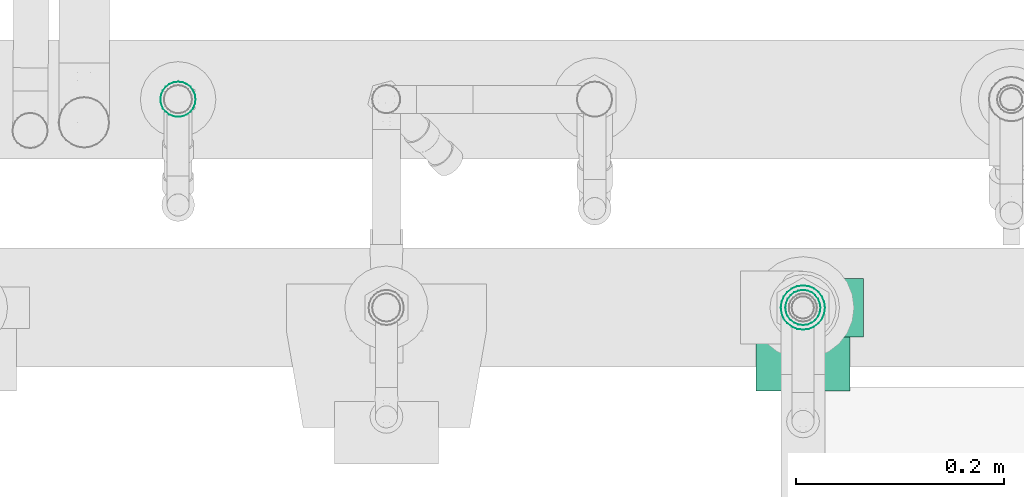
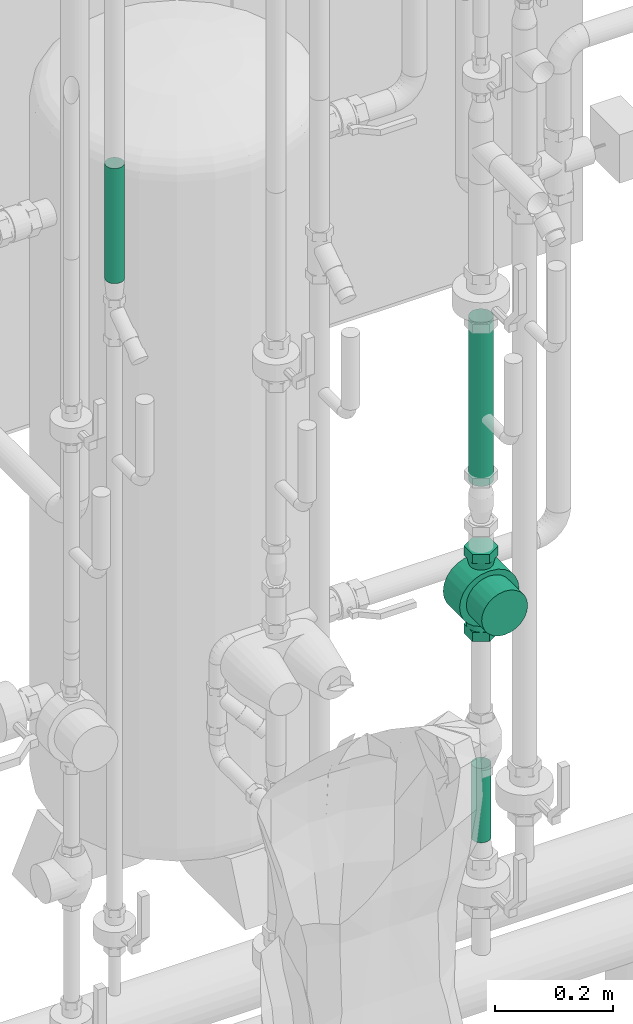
# One storey, part 268 of 374: 3 flow segments, 1 flow moving device.
"""IFC2X3 building model written with IfcOpenShell, lengths in metres."""

from ifc_helpers import new_model, si_unit, direction, origin, place, context, subcontext, project, spatial, open_shell, surface_model, source, transform, mapped, element, save


model = new_model("IFC2X3")

# Units and contexts
model_context = context("Model", 3, precision=1e-05, world=origin(), true_north=direction((-0.4480736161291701, 0.8939966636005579)))
body_context = subcontext(model_context, "Body", "Model", "MODEL_VIEW")
ifc_project = project(units=[si_unit("LENGTHUNIT", "METRE"), si_unit("AREAUNIT", "SQUARE_METRE"), si_unit("VOLUMEUNIT", "CUBIC_METRE"), si_unit("PLANEANGLEUNIT", "RADIAN"), si_unit("THERMODYNAMICTEMPERATUREUNIT", "KELVIN"), si_unit("MASSUNIT", "GRAM", prefix="KILO"), si_unit("TIMEUNIT", "SECOND")], contexts=[model_context])

# Site, building, storey
site_placement = place(None, origin())
site = spatial("IfcSite", under=ifc_project, at=site_placement, Name="Site 1", CompositionType="ELEMENT")
building_placement = place(site_placement, origin())
building = spatial("IfcBuilding", under=site, at=building_placement, Name="Undefined", CompositionType="ELEMENT")
storey_placement = place(building_placement, origin())
storey = spatial("IfcBuildingStorey", under=building, at=storey_placement, Name="Rez de chauss\x8ee", CompositionType="ELEMENT", Elevation=0.0)

# Flow segment
shared_shape_1 = source(origin(), body_context, "Body", "SurfaceModel", [
    surface_model("IfcFaceBasedSurfaceModel", [(0.0, 0.004398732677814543, 0.0), (0.0, 0.0, 0.0), (0.15351296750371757, -8.8817842e-16, 7.105427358e-15), (0.15351296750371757, 0.004398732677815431, 7.105427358e-15), (0.0, -0.004248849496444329, -0.00113847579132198), (0.15351296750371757, -0.004248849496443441, -0.00113847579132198), (0.0, -0.008058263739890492, -0.003337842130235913), (0.15351296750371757, -0.008058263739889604, -0.003337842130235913), (0.0, -0.01116863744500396, -0.0064482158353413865), (0.15351296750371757, -0.01116863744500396, -0.006448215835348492), (0.0, -0.013368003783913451, -0.010257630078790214), (0.15351296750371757, -0.013368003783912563, -0.010257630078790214), (0.0, -0.014506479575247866, -0.014506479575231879), (0.15351296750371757, -0.014506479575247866, -0.014506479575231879), (0.0, -0.01450647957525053, -0.01890521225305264), (0.15351296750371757, -0.01450647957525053, -0.01890521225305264), (0.0, -0.013368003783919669, -0.023154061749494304), (0.15351296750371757, -0.013368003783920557, -0.02315406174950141), (0.0, -0.011168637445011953, -0.02696347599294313), (0.15351296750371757, -0.011168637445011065, -0.02696347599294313), (0.0, -0.008058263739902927, -0.03007384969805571), (0.15351296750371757, -0.008058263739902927, -0.030073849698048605), (0.0, -0.004248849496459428, -0.03227321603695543), (0.15351296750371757, -0.00424884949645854, -0.03227321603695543), (0.0, -1.5099033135e-14, -0.03341169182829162), (0.15351296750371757, -1.5987211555e-14, -0.03341169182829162), (0.0, 0.00439873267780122, -0.03341169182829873), (0.15351296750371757, 0.004398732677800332, -0.03341169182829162), (0.0, 0.008647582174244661, -0.03227321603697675), (0.15351296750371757, 0.008647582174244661, -0.03227321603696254), (0.0, 0.012456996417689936, -0.030073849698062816), (0.15351296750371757, 0.012456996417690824, -0.030073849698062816), (0.0, 0.01556737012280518, -0.026963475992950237), (0.15351296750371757, 0.015567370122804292, -0.026963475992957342), (0.0, 0.017766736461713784, -0.023154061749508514), (0.15351296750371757, 0.017766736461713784, -0.023154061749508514), (0.0, 0.018905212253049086, -0.01890521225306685), (0.15351296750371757, 0.018905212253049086, -0.01890521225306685), (0.0, 0.018905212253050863, -0.01450647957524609), (0.15351296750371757, 0.01890521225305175, -0.01450647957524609), (0.0, 0.01776673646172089, -0.01025763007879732), (0.15351296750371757, 0.01776673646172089, -0.010257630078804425), (0.0, 0.015567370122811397, -0.006448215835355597), (0.15351296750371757, 0.015567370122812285, -0.006448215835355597), (0.0, 0.012456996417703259, -0.0033378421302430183), (0.15351296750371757, 0.012456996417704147, -0.003337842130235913), (0.0, 0.00864758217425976, -0.0011384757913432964), (0.15351296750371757, 0.008647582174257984, -0.0011384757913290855)], [open_shell([[[0, 1, 2, 3]], [[1, 4, 5, 2]], [[4, 6, 7, 5]], [[6, 8, 9, 7]], [[8, 10, 11, 9]], [[10, 12, 13, 11]], [[12, 14, 15, 13]], [[14, 16, 17, 15]], [[16, 18, 19, 17]], [[18, 20, 21, 19]], [[20, 22, 23, 21]], [[22, 24, 25, 23]], [[24, 26, 27, 25]], [[26, 28, 29, 27]], [[28, 30, 31, 29]], [[30, 32, 33, 31]], [[32, 34, 35, 33]], [[34, 36, 37, 35]], [[36, 38, 39, 37]], [[38, 40, 41, 39]], [[40, 42, 43, 41]], [[42, 44, 45, 43]], [[44, 46, 47, 45]], [[46, 0, 3, 47]]])]),
])
flow_segment_1_placement = place(storey_placement, origin())
element("IfcFlowSegment", 1, at=flow_segment_1_placement, inside=storey, Name="Tube acier d'après DIN 2448", ObjectType="Tube acier d'après DIN 2448", context=body_context, shape_type="MappedRepresentation", body=[
    mapped(shared_shape_1, transform((53.67383786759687, 10.722398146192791, 0.5889500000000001), x_axis=(0.0, 0.0, 1.0), y_axis=(0.13052619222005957, -0.9914448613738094, 0.0), z_axis=(0.9914448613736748, 0.13052619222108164, 0.0))),
])

# Flow moving device
shared_shape_2 = source(origin(), body_context, "Body", "SurfaceModel", [
    surface_model("IfcFaceBasedSurfaceModel", [(0.0, 0.0, 0.0), (0.028867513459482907, 0.0, 0.0), (0.028867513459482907, 0.019099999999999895, 0.0), (0.0, 0.019099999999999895, 0.0), (-0.014433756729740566, 0.0, 0.02499999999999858), (-0.014433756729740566, 0.019099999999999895, 0.02499999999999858), (0.0, 0.0, 0.04999999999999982), (0.0, 0.019099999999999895, 0.04999999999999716), (0.028867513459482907, 0.0, 0.04999999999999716), (0.028867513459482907, 0.019099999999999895, 0.04999999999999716), (0.04330127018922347, 0.0, 0.02499999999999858), (0.04330127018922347, 0.019099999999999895, 0.02499999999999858), (-0.010566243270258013, 0.019099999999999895, 0.02499999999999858), (-0.00971438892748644, 0.019099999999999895, 0.03147047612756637), (-0.006043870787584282, 0.03509999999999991, 0.0304869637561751), (-0.006766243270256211, 0.03509999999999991, 0.02499999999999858), (-0.007216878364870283, 0.019099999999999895, 0.03750000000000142), (-0.003925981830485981, 0.03509999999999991, 0.035600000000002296), (-0.0032439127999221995, 0.019099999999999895, 0.04267766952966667), (-0.0005569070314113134, 0.03509999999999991, 0.03999066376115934), (0.001933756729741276, 0.019099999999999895, 0.04665063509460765), (0.003833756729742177, 0.03509999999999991, 0.04335973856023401), (0.007963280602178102, 0.019099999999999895, 0.04914814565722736), (0.008946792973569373, 0.03509999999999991, 0.04547762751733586), (0.014433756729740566, 0.019099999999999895, 0.04999999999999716), (0.014433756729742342, 0.03509999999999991, 0.046200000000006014), (0.02090423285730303, 0.019099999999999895, 0.04914814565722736), (0.019920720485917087, 0.03509999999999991, 0.04547762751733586), (0.02693375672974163, 0.019099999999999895, 0.04665063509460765), (0.025033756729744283, 0.03509999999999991, 0.04335973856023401), (0.03211142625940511, 0.019099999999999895, 0.04267766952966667), (0.029424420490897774, 0.03509999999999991, 0.03999066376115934), (0.03608439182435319, 0.019099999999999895, 0.03750000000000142), (0.03279349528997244, 0.03509999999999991, 0.035600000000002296), (0.03858190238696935, 0.019099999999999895, 0.03147047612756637), (0.03491138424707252, 0.03509999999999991, 0.0304869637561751), (0.03943375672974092, 0.019099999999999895, 0.02499999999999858), (0.03563375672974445, 0.03509999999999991, 0.02499999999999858), (0.03858190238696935, 0.019099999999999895, 0.018529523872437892), (0.03491138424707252, 0.03509999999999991, 0.019513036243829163), (0.03608439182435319, 0.019099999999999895, 0.012500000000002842), (0.03279349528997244, 0.03509999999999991, 0.014400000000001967), (0.03211142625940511, 0.019099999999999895, 0.00732233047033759), (0.029424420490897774, 0.03509999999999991, 0.010009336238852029), (0.02693375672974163, 0.019099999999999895, 0.003349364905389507), (0.025033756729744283, 0.03509999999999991, 0.006640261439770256), (0.02090423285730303, 0.019099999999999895, 0.0008518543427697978), (0.019920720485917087, 0.03509999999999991, 0.004522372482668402), (0.014433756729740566, 0.019099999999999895, 0.0), (0.014433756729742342, 0.03509999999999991, 0.0038000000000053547), (0.007963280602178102, 0.019099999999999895, 0.0008518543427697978), (0.008946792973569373, 0.03509999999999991, 0.004522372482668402), (0.001933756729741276, 0.019099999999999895, 0.003349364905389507), (0.003833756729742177, 0.03509999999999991, 0.006640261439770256), (-0.0032439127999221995, 0.019099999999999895, 0.00732233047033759), (-0.0005569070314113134, 0.03509999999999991, 0.010009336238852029), (-0.007216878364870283, 0.019099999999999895, 0.012500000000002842), (-0.003925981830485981, 0.03509999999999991, 0.014400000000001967), (-0.00971438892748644, 0.019099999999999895, 0.018529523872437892), (-0.006043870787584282, 0.03509999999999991, 0.019513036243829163), (-0.006766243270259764, 0.14490000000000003, 0.02499999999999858), (-0.006043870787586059, 0.14490000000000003, 0.030486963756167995), (-0.009714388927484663, 0.16090000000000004, 0.03147047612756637), (-0.010566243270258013, 0.16090000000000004, 0.025000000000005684), (-0.003925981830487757, 0.14490000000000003, 0.03559999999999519), (-0.007216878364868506, 0.16090000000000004, 0.03750000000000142), (-0.0005569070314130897, 0.14490000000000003, 0.03999066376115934), (-0.0032439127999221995, 0.16090000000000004, 0.04267766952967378), (0.0038337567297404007, 0.14490000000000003, 0.04335973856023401), (0.001933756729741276, 0.16090000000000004, 0.04665063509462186), (0.008946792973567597, 0.14490000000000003, 0.045477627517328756), (0.007963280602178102, 0.16090000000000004, 0.04914814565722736), (0.014433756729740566, 0.14490000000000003, 0.04619999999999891), (0.014433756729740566, 0.16090000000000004, 0.04999999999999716), (0.01992072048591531, 0.14490000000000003, 0.045477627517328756), (0.02090423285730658, 0.16090000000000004, 0.04914814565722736), (0.025033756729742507, 0.14490000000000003, 0.04335973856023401), (0.026933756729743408, 0.16090000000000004, 0.04665063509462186), (0.029424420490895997, 0.14490000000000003, 0.03999066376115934), (0.03211142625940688, 0.16090000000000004, 0.04267766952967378), (0.032793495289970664, 0.14490000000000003, 0.03559999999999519), (0.03608439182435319, 0.16090000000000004, 0.03750000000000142), (0.034911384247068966, 0.14490000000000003, 0.030486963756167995), (0.03858190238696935, 0.16090000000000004, 0.03147047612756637), (0.03563375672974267, 0.14490000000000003, 0.02499999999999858), (0.0394337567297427, 0.16090000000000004, 0.025000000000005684), (0.034911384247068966, 0.14490000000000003, 0.019513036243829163), (0.03858190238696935, 0.16090000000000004, 0.018529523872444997), (0.032793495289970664, 0.14490000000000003, 0.014400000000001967), (0.03608439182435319, 0.16090000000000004, 0.012500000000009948), (0.029424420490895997, 0.14490000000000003, 0.010009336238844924), (0.03211142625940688, 0.16090000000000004, 0.007322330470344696), (0.025033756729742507, 0.14490000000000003, 0.006640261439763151), (0.026933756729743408, 0.16090000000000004, 0.003349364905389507), (0.01992072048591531, 0.14490000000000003, 0.004522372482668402), (0.02090423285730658, 0.16090000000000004, 0.0008518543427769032), (0.014433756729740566, 0.14490000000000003, 0.0038000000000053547), (0.014433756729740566, 0.16090000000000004, 7.105427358e-15), (0.008946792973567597, 0.14490000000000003, 0.004522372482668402), (0.007963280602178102, 0.16090000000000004, 0.0008518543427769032), (0.0038337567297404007, 0.14490000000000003, 0.006640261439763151), (0.001933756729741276, 0.16090000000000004, 0.003349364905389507), (-0.0005569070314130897, 0.14490000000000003, 0.010009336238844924), (-0.0032439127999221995, 0.16090000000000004, 0.007322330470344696), (-0.003925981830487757, 0.14490000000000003, 0.014400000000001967), (-0.007216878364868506, 0.16090000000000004, 0.012500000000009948), (-0.006043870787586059, 0.14490000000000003, 0.019513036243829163), (-0.009714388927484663, 0.16090000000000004, 0.018529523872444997), (0.0, 0.16090000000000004, 0.0), (0.028867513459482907, 0.16090000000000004, 0.0), (0.028867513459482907, 0.17999999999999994, 0.0), (0.0, 0.17999999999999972, 0.0), (-0.014433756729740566, 0.16090000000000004, 0.02499999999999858), (-0.014433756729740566, 0.17999999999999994, 0.02499999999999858), (0.0, 0.16090000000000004, 0.04999999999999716), (0.0, 0.17999999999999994, 0.04999999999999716), (0.028867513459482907, 0.16090000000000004, 0.04999999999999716), (0.028867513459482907, 0.17999999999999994, 0.04999999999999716), (0.04330127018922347, 0.16090000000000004, 0.02499999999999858), (0.04330127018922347, 0.17999999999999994, 0.02499999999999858), (0.042433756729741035, 0.03509999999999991, 0.028100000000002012), (0.042433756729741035, 0.03509999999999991, 0.02190000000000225), (-0.013566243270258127, 0.03509999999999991, 0.02190000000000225), (-0.013566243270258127, 0.03509999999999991, 0.028100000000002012), (0.042433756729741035, 0.14490000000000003, 0.02190000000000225), (0.042433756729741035, 0.14302932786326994, 0.007690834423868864), (-0.013566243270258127, 0.14302932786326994, 0.007690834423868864), (-0.013566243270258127, 0.14490000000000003, 0.02190000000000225), (0.042433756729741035, 0.1375447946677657, -0.0055499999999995), (-0.013566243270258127, 0.1375447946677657, -0.0055499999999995), (0.042433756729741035, 0.12882016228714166, -0.016920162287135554), (-0.013566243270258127, 0.12882016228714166, -0.016920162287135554), (0.042433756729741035, 0.11745000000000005, -0.025644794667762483), (-0.013566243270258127, 0.11745000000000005, -0.025644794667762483), (0.042433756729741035, 0.10420916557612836, -0.03112932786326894), (-0.013566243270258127, 0.10420916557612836, -0.03112932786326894), (0.042433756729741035, 0.09000000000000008, -0.032999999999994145), (-0.013566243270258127, 0.09000000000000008, -0.032999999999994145), (0.042433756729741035, 0.0757908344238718, -0.03112932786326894), (-0.013566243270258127, 0.0757908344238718, -0.03112932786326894), (0.042433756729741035, 0.06254999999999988, -0.025644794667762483), (-0.013566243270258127, 0.06254999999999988, -0.025644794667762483), (0.042433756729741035, 0.0511798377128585, -0.016920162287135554), (-0.013566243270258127, 0.0511798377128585, -0.016920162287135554), (0.042433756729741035, 0.042455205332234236, -0.0055499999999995), (-0.013566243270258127, 0.042455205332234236, -0.0055499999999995), (0.042433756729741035, 0.03697067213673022, 0.007690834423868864), (-0.013566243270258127, 0.03697067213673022, 0.007690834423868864), (0.042433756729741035, 0.14490000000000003, 0.028100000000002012), (-0.013566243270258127, 0.14490000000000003, 0.028100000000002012), (0.042433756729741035, 0.03697067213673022, 0.0423091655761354), (-0.013566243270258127, 0.03697067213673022, 0.0423091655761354), (0.042433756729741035, 0.042455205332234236, 0.05555000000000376), (-0.013566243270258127, 0.042455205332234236, 0.05555000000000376), (0.042433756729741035, 0.0511798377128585, 0.06692016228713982), (-0.013566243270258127, 0.0511798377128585, 0.06692016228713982), (0.042433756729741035, 0.06254999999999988, 0.07564479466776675), (-0.013566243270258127, 0.06254999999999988, 0.07564479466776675), (0.042433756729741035, 0.07579083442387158, 0.0811293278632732), (-0.013566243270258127, 0.07579083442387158, 0.0811293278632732), (0.042433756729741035, 0.09000000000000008, 0.08300000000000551), (-0.013566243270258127, 0.09000000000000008, 0.08300000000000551), (0.042433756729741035, 0.10420916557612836, 0.0811293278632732), (-0.013566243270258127, 0.10420916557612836, 0.0811293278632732), (0.042433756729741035, 0.11745000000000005, 0.07564479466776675), (-0.013566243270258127, 0.11745000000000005, 0.07564479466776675), (0.042433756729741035, 0.12882016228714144, 0.06692016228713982), (-0.013566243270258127, 0.12882016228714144, 0.06692016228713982), (0.042433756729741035, 0.1375447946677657, 0.05555000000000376), (-0.013566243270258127, 0.1375447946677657, 0.05555000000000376), (0.042433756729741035, 0.14302932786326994, 0.0423091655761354), (-0.013566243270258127, 0.14302932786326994, 0.0423091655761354), (0.042433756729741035, 0.135, 0.025000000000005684), (0.042433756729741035, 0.13346666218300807, 0.03664685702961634), (0.09443375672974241, 0.13346666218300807, 0.03664685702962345), (0.09443375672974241, 0.135, 0.02500000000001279), (0.042433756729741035, 0.12897114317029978, 0.04749999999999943), (0.09443375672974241, 0.12897114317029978, 0.04750000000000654), (0.042433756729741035, 0.12181980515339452, 0.05681980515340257), (0.09443375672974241, 0.12181980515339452, 0.056819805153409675), (0.042433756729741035, 0.11250000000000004, 0.06397114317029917), (0.09443375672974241, 0.11250000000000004, 0.06397114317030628), (0.042433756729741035, 0.1016468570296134, 0.06846666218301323), (0.09443375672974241, 0.1016468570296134, 0.06846666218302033), (0.042433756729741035, 0.09000000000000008, 0.07000000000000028), (0.09443375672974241, 0.09000000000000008, 0.07000000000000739), (0.042433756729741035, 0.07835314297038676, 0.06846666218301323), (0.09443375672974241, 0.07835314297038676, 0.06846666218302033), (0.042433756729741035, 0.06750000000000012, 0.06397114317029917), (0.09443375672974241, 0.06750000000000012, 0.06397114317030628), (0.042433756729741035, 0.058180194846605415, 0.05681980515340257), (0.09443375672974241, 0.058180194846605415, 0.056819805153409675), (0.042433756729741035, 0.051028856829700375, 0.04749999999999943), (0.09443375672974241, 0.051028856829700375, 0.04750000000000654), (0.042433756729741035, 0.04653333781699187, 0.03664685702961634), (0.09443375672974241, 0.04653333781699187, 0.03664685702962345), (0.042433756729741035, 0.04499999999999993, 0.025000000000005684), (0.09443375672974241, 0.04499999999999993, 0.02500000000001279), (0.042433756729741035, 0.04653333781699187, 0.013353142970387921), (0.09443375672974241, 0.04653333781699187, 0.013353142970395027), (0.042433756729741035, 0.051028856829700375, 0.0025000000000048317), (0.09443375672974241, 0.051028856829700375, 0.002500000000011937), (0.042433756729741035, 0.058180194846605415, -0.006819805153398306), (0.09443375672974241, 0.058180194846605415, -0.006819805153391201), (0.042433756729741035, 0.06750000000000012, -0.013971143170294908), (0.09443375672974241, 0.06750000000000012, -0.013971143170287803), (0.042433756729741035, 0.07835314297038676, -0.018466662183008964), (0.09443375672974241, 0.07835314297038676, -0.01846666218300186), (0.042433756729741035, 0.09000000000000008, -0.01999999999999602), (0.09443375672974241, 0.09000000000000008, -0.019999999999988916), (0.042433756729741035, 0.1016468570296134, -0.018466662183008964), (0.09443375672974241, 0.1016468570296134, -0.01846666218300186), (0.042433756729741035, 0.11250000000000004, -0.013971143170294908), (0.09443375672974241, 0.11250000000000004, -0.013971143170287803), (0.042433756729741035, 0.12181980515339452, -0.006819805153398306), (0.09443375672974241, 0.12181980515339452, -0.006819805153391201), (0.042433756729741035, 0.12897114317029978, 0.0025000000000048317), (0.09443375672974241, 0.12897114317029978, 0.002500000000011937), (0.042433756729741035, 0.13346666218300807, 0.013353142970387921), (0.09443375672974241, 0.13346666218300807, 0.013353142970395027), (0.09443375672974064, 0.09000000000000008, 0.025000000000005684)], [open_shell([[[0, 1, 2, 3]], [[4, 0, 3, 5]], [[6, 4, 5, 7]], [[8, 6, 7, 9]], [[10, 8, 9, 11]], [[1, 10, 11, 2]], [[1, 0, 4]], [[1, 4, 6]], [[1, 6, 8]], [[1, 8, 10]], [[2, 5, 3]], [[2, 7, 5]], [[2, 9, 7]], [[2, 11, 9]], [[12, 13, 14, 15]], [[13, 16, 17, 14]], [[16, 18, 19, 17]], [[18, 20, 21, 19]], [[20, 22, 23, 21]], [[22, 24, 25, 23]], [[24, 26, 27, 25]], [[26, 28, 29, 27]], [[28, 30, 31, 29]], [[30, 32, 33, 31]], [[32, 34, 35, 33]], [[34, 36, 37, 35]], [[36, 38, 39, 37]], [[38, 40, 41, 39]], [[40, 42, 43, 41]], [[42, 44, 45, 43]], [[44, 46, 47, 45]], [[46, 48, 49, 47]], [[48, 50, 51, 49]], [[50, 52, 53, 51]], [[52, 54, 55, 53]], [[54, 56, 57, 55]], [[56, 58, 59, 57]], [[58, 12, 15, 59]], [[60, 61, 62, 63]], [[61, 64, 65, 62]], [[64, 66, 67, 65]], [[66, 68, 69, 67]], [[68, 70, 71, 69]], [[70, 72, 73, 71]], [[72, 74, 75, 73]], [[74, 76, 77, 75]], [[76, 78, 79, 77]], [[78, 80, 81, 79]], [[80, 82, 83, 81]], [[82, 84, 85, 83]], [[84, 86, 87, 85]], [[86, 88, 89, 87]], [[88, 90, 91, 89]], [[90, 92, 93, 91]], [[92, 94, 95, 93]], [[94, 96, 97, 95]], [[96, 98, 99, 97]], [[98, 100, 101, 99]], [[100, 102, 103, 101]], [[102, 104, 105, 103]], [[104, 106, 107, 105]], [[106, 60, 63, 107]], [[108, 109, 110, 111]], [[112, 108, 111, 113]], [[114, 112, 113, 115]], [[116, 114, 115, 117]], [[118, 116, 117, 119]], [[109, 118, 119, 110]], [[109, 108, 112]], [[109, 112, 114]], [[109, 114, 116]], [[109, 116, 118]], [[110, 113, 111]], [[110, 115, 113]], [[110, 117, 115]], [[110, 119, 117]], [[120, 121, 122, 123]], [[124, 125, 126, 127]], [[125, 128, 129, 126]], [[128, 130, 131, 129]], [[130, 132, 133, 131]], [[132, 134, 135, 133]], [[134, 136, 137, 135]], [[136, 138, 139, 137]], [[138, 140, 141, 139]], [[140, 142, 143, 141]], [[142, 144, 145, 143]], [[144, 146, 147, 145]], [[146, 121, 122, 147]], [[124, 148, 149, 127]], [[120, 150, 151, 123]], [[150, 152, 153, 151]], [[152, 154, 155, 153]], [[154, 156, 157, 155]], [[156, 158, 159, 157]], [[158, 160, 161, 159]], [[160, 162, 163, 161]], [[162, 164, 165, 163]], [[164, 166, 167, 165]], [[166, 168, 169, 167]], [[168, 170, 171, 169]], [[170, 148, 149, 171]], [[147, 122, 123]], [[145, 147, 123]], [[143, 145, 123]], [[141, 143, 123]], [[139, 141, 123]], [[137, 139, 123]], [[135, 137, 123]], [[133, 135, 123]], [[131, 133, 123]], [[129, 131, 123]], [[126, 129, 123]], [[127, 126, 123]], [[149, 127, 123]], [[171, 149, 123]], [[169, 171, 123]], [[167, 169, 123]], [[165, 167, 123]], [[163, 165, 123]], [[161, 163, 123]], [[159, 161, 123]], [[157, 159, 123]], [[155, 157, 123]], [[153, 155, 123]], [[151, 153, 123]], [[120, 121, 146]], [[120, 146, 144]], [[120, 144, 142]], [[120, 142, 140]], [[120, 140, 138]], [[120, 138, 136]], [[120, 136, 134]], [[120, 134, 132]], [[120, 132, 130]], [[120, 130, 128]], [[120, 128, 125]], [[120, 125, 124]], [[120, 124, 148]], [[120, 148, 170]], [[120, 170, 168]], [[120, 168, 166]], [[120, 166, 164]], [[120, 164, 162]], [[120, 162, 160]], [[120, 160, 158]], [[120, 158, 156]], [[120, 156, 154]], [[120, 154, 152]], [[120, 152, 150]], [[172, 173, 174, 175]], [[173, 176, 177, 174]], [[176, 178, 179, 177]], [[178, 180, 181, 179]], [[180, 182, 183, 181]], [[182, 184, 185, 183]], [[184, 186, 187, 185]], [[186, 188, 189, 187]], [[188, 190, 191, 189]], [[190, 192, 193, 191]], [[192, 194, 195, 193]], [[194, 196, 197, 195]], [[196, 198, 199, 197]], [[198, 200, 201, 199]], [[200, 202, 203, 201]], [[202, 204, 205, 203]], [[204, 206, 207, 205]], [[206, 208, 209, 207]], [[208, 210, 211, 209]], [[210, 212, 213, 211]], [[212, 214, 215, 213]], [[214, 216, 217, 215]], [[216, 218, 219, 217]], [[218, 172, 175, 219]], [[220, 219, 175]], [[220, 217, 219]], [[220, 215, 217]], [[220, 213, 215]], [[220, 211, 213]], [[220, 209, 211]], [[220, 207, 209]], [[220, 205, 207]], [[220, 203, 205]], [[220, 201, 203]], [[220, 199, 201]], [[220, 197, 199]], [[220, 195, 197]], [[220, 193, 195]], [[220, 191, 193]], [[220, 189, 191]], [[220, 187, 189]], [[220, 185, 187]], [[220, 183, 185]], [[220, 181, 183]], [[220, 179, 181]], [[220, 177, 179]], [[220, 174, 177]], [[220, 175, 174]]])]),
])
flow_moving_device_placement = place(storey_placement, origin())
element("IfcFlowMovingDevice", 2, at=flow_moving_device_placement, inside=storey, Name="Pompe insérée dans réseau", ObjectType="Pompe insérée dans réseau", context=body_context, shape_type="MappedRepresentation", body=[
    mapped(shared_shape_2, transform((53.682562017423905, 10.732470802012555, 1.01), x_axis=(0.0, -1.0, 0.0), y_axis=(0.0, 0.0, 1.0), z_axis=(-1.0, 0.0, 0.0))),
])

# Flow segments
shared_shape_3 = source(origin(), body_context, "Body", "SurfaceModel", [
    surface_model("IfcFaceBasedSurfaceModel", [(0.0, 0.005534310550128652, 0.0), (0.0, 0.0, 0.0), (0.3375415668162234, 0.0, 0.0), (0.3375415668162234, 0.00553431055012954, 7.105427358e-15), (0.0, -0.00534573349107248, -0.0014323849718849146), (0.3375415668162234, -0.005345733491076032, -0.0014323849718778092), (0.0, -0.010138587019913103, -0.004199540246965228), (0.3375415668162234, -0.010138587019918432, -0.004199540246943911), (0.0, -0.01405193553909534, -0.008112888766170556), (0.3375415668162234, -0.014051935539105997, -0.008112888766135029), (0.0, -0.016819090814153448, -0.012905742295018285), (0.3375415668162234, -0.016819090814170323, -0.012905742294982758), (0.0, -0.018251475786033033, -0.018251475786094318), (0.3375415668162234, -0.018251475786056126, -0.018251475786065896), (0.0, -0.0182514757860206, -0.02378578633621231), (0.3375415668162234, -0.018251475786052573, -0.02378578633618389), (0.0, -0.01681909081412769, -0.029131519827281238), (0.3375415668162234, -0.016819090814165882, -0.029131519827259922), (0.0, -0.014051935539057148, -0.03392437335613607), (0.3375415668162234, -0.01405193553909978, -0.033924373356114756), (0.0, -0.010138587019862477, -0.037837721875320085), (0.3375415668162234, -0.010138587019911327, -0.03783772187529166), (0.0, -0.005345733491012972, -0.040604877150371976), (0.3375415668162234, -0.00534573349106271, -0.040604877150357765), (0.0, 6.4837024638e-14, -0.042037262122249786), (0.3375415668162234, 1.1546319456e-14, -0.04203726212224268), (0.0, 0.005534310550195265, -0.04203726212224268), (0.3375415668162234, 0.005534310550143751, -0.042037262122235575), (0.0, 0.010880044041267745, -0.04060487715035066), (0.3375415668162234, 0.010880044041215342, -0.040604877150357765), (0.0, 0.01567289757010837, -0.03783772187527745), (0.3375415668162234, 0.015672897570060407, -0.03783772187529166), (0.0, 0.019586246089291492, -0.033924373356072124), (0.3375415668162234, 0.01958624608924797, -0.033924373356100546), (0.0, 0.0223534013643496, -0.029131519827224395), (0.3375415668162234, 0.022353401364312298, -0.029131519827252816), (0.0, 0.02378578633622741, -0.023785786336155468), (0.3375415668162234, 0.023785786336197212, -0.02378578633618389), (0.0, 0.023785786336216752, -0.01825147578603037), (0.3375415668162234, 0.023785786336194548, -0.018251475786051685), (0.0, 0.022353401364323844, -0.012905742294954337), (0.3375415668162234, 0.022353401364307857, -0.012905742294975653), (0.0, 0.019586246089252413, -0.008112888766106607), (0.3375415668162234, 0.019586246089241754, -0.008112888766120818), (0.0, 0.015672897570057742, -0.004199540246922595), (0.3375415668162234, 0.015672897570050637, -0.004199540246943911), (0.0, 0.010880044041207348, -0.0014323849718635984), (0.3375415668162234, 0.01088004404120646, -0.0014323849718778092)], [open_shell([[[0, 1, 2, 3]], [[1, 4, 5, 2]], [[4, 6, 7, 5]], [[6, 8, 9, 7]], [[8, 10, 11, 9]], [[10, 12, 13, 11]], [[12, 14, 15, 13]], [[14, 16, 17, 15]], [[16, 18, 19, 17]], [[18, 20, 21, 19]], [[20, 22, 23, 21]], [[22, 24, 25, 23]], [[24, 26, 27, 25]], [[26, 28, 29, 27]], [[28, 30, 31, 29]], [[30, 32, 33, 31]], [[32, 34, 35, 33]], [[34, 36, 37, 35]], [[36, 38, 39, 37]], [[38, 40, 41, 39]], [[40, 42, 43, 41]], [[42, 44, 45, 43]], [[44, 46, 47, 45]], [[46, 0, 3, 47]]])]),
])
flow_segment_2_placement = place(storey_placement, origin())
element("IfcFlowSegment", 3, at=flow_segment_2_placement, inside=storey, Name="Tube acier d'après DIN 2448", ObjectType="Tube acier d'après DIN 2448", context=body_context, shape_type="MappedRepresentation", body=[
    mapped(shared_shape_3, transform((53.67803964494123, 10.723524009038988, 1.3275475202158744), x_axis=(0.0, 0.0, 1.0), y_axis=(0.13052619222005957, -0.9914448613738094, 0.0), z_axis=(0.9914448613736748, 0.13052619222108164, 0.0))),
])
shared_shape_4 = source(origin(), body_context, "Body", "SurfaceModel", [
    surface_model("IfcFaceBasedSurfaceModel", [(0.0, 0.004398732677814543, 0.0), (0.0, 0.0, 0.0), (0.23775453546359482, 0.0, 0.0), (0.23775453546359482, 0.004398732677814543, 7.105427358e-15), (0.0, -0.004248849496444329, -0.00113847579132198), (0.23775453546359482, -0.0042488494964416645, -0.0011384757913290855), (0.0, -0.008058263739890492, -0.003337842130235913), (0.23775453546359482, -0.008058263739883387, -0.0033378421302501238), (0.0, -0.01116863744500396, -0.0064482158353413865), (0.23775453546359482, -0.011168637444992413, -0.006448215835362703), (0.0, -0.013368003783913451, -0.010257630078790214), (0.23775453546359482, -0.013368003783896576, -0.010257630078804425), (0.0, -0.014506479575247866, -0.014506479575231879), (0.23775453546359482, -0.014506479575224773, -0.0145064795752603), (0.0, -0.01450647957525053, -0.01890521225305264), (0.23775453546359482, -0.014506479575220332, -0.01890521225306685), (0.0, -0.013368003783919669, -0.023154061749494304), (0.23775453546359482, -0.013368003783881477, -0.023154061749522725), (0.0, -0.011168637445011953, -0.02696347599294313), (0.23775453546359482, -0.011168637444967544, -0.026963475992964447), (0.0, -0.008058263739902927, -0.03007384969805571), (0.23775453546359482, -0.008058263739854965, -0.030073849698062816), (0.0, -0.004248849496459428, -0.03227321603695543), (0.23775453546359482, -0.004248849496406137, -0.03227321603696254), (0.0, -1.5099033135e-14, -0.03341169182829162), (0.23775453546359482, 3.8191672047e-14, -0.03341169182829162), (0.0, 0.00439873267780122, -0.03341169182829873), (0.23775453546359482, 0.004398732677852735, -0.03341169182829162), (0.0, 0.008647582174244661, -0.03227321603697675), (0.23775453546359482, 0.0086475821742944, -0.03227321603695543), (0.0, 0.012456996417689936, -0.030073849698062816), (0.23775453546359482, 0.012456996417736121, -0.0300738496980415), (0.0, 0.01556737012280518, -0.026963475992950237), (0.23775453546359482, 0.015567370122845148, -0.026963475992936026), (0.0, 0.017766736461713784, -0.023154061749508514), (0.23775453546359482, 0.017766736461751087, -0.023154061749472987), (0.0, 0.018905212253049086, -0.01890521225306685), (0.23775453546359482, 0.018905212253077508, -0.018905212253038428), (0.0, 0.018905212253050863, -0.01450647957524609), (0.23775453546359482, 0.018905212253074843, -0.014506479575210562), (0.0, 0.01776673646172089, -0.01025763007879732), (0.23775453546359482, 0.01776673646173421, -0.010257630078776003), (0.0, 0.015567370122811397, -0.006448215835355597), (0.23775453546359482, 0.015567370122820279, -0.006448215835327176), (0.0, 0.012456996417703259, -0.0033378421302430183), (0.23775453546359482, 0.0124569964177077, -0.003337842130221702), (0.0, 0.00864758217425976, -0.0011384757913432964), (0.23775453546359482, 0.008647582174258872, -0.0011384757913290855)], [open_shell([[[0, 1, 2, 3]], [[1, 4, 5, 2]], [[4, 6, 7, 5]], [[6, 8, 9, 7]], [[8, 10, 11, 9]], [[10, 12, 13, 11]], [[12, 14, 15, 13]], [[14, 16, 17, 15]], [[16, 18, 19, 17]], [[18, 20, 21, 19]], [[20, 22, 23, 21]], [[22, 24, 25, 23]], [[24, 26, 27, 25]], [[26, 28, 29, 27]], [[28, 30, 31, 29]], [[30, 32, 33, 31]], [[32, 34, 35, 33]], [[34, 36, 37, 35]], [[36, 38, 39, 37]], [[38, 40, 41, 39]], [[40, 42, 43, 41]], [[42, 44, 45, 43]], [[44, 46, 47, 45]], [[46, 0, 3, 47]]])]),
])
flow_segment_3_placement = place(storey_placement, origin())
element("IfcFlowSegment", 4, at=flow_segment_3_placement, inside=storey, Name="Tube acier d'après DIN 2448", ObjectType="Tube acier d'après DIN 2448", context=body_context, shape_type="MappedRepresentation", body=[
    mapped(shared_shape_4, transform((53.04128616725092, 10.913675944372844, 1.8317733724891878), x_axis=(0.0, 0.0, 1.0), y_axis=(-0.13052619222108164, 0.9914448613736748, 0.0), z_axis=(-0.9914448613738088, -0.13052619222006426, 0.0))),
])

save(model, "model.ifc")
